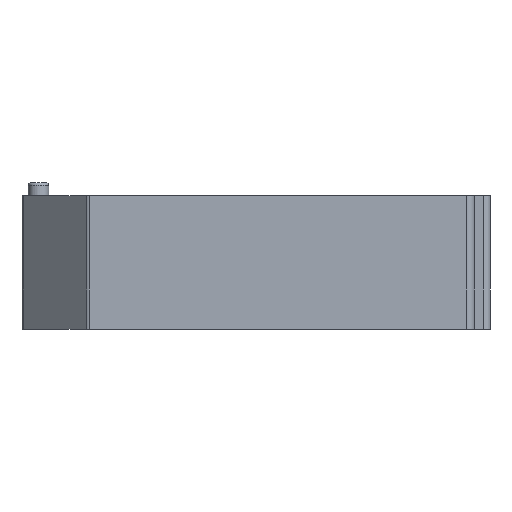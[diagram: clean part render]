
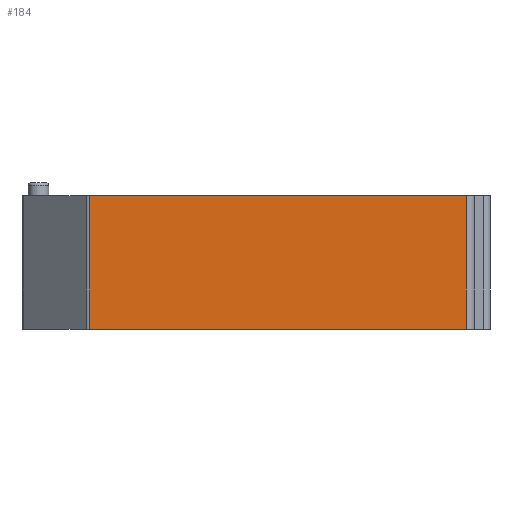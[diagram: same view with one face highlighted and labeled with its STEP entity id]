
A CAD part, left-side view. The second image highlights one B-rep face of the part: STEP entity #184.
In plain terms, the highlighted planar face has unit normal (-1, 0, 0).
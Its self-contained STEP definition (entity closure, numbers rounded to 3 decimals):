
#139=FACE_OUTER_BOUND('',#289,.T.);
#184=ADVANCED_FACE('',(#139),#234,.T.);
#234=PLANE('',#1071);
#289=EDGE_LOOP('',(#450,#451,#452,#453));
#450=ORIENTED_EDGE('',*,*,#729,.F.);
#451=ORIENTED_EDGE('',*,*,#784,.F.);
#452=ORIENTED_EDGE('',*,*,#785,.T.);
#453=ORIENTED_EDGE('',*,*,#786,.T.);
#639=VERTEX_POINT('',#1412);
#640=VERTEX_POINT('',#1414);
#686=VERTEX_POINT('',#1522);
#687=VERTEX_POINT('',#1526);
#729=EDGE_CURVE('',#639,#640,#858,.T.);
#784=EDGE_CURVE('',#686,#639,#897,.T.);
#785=EDGE_CURVE('',#686,#687,#898,.T.);
#786=EDGE_CURVE('',#687,#640,#899,.T.);
#858=LINE('',#1413,#952);
#897=LINE('',#1523,#991);
#898=LINE('',#1525,#992);
#899=LINE('',#1527,#993);
#952=VECTOR('',#1139,1.);
#991=VECTOR('',#1226,1.);
#992=VECTOR('',#1229,1.);
#993=VECTOR('',#1230,1.);
#1071=AXIS2_PLACEMENT_3D('',#1528,#1231,#1232);
#1139=DIRECTION('',(0.,1.,0.));
#1226=DIRECTION('',(0.,0.,-1.));
#1229=DIRECTION('',(0.,1.,0.));
#1230=DIRECTION('',(0.,0.,-1.));
#1231=DIRECTION('',(-1.,0.,0.));
#1232=DIRECTION('',(0.,-1.,0.));
#1412=CARTESIAN_POINT('',(0.,-73.386,0.));
#1413=CARTESIAN_POINT('',(0.,-71.186,0.));
#1414=CARTESIAN_POINT('',(0.,0.,0.));
#1522=CARTESIAN_POINT('',(0.,-73.386,26.));
#1523=CARTESIAN_POINT('',(0.,-73.386,26.));
#1525=CARTESIAN_POINT('',(0.,-73.386,26.));
#1526=CARTESIAN_POINT('',(0.,0.,26.));
#1527=CARTESIAN_POINT('',(0.,0.,26.));
#1528=CARTESIAN_POINT('',(0.,-71.186,26.));
